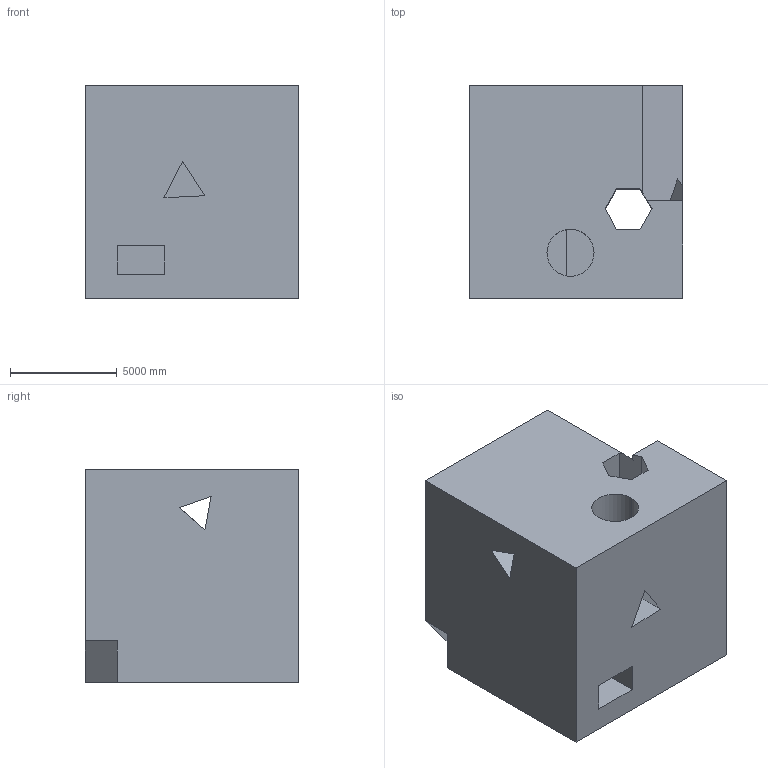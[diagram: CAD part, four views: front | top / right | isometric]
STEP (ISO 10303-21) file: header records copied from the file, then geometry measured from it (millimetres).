
FILE_DESCRIPTION (( 'STEP AP203' ), '1' );
FILE_NAME ('772.STEP', '2022-07-29T13:06:13', ( 'user' ), ( '' ), 'SwSTEP 2.0', 'SolidWorks 2021', '' );
FILE_SCHEMA (( 'CONFIG_CONTROL_DESIGN' ));
Length unit declared in the file: centimetre
Products named in the file (1): 772
Bounding box: 10000 x 10000 x 10000 mm (x, y, z)
Volume: 897536465923.9 mm3; surface area: 802503378.3 mm2
Topology: 1 solids, 1 shells, 45 faces, 135 edges, 90 vertices
Faces by surface type: plane 43, cylinder 2
Entity records: 1592 total; most frequent: CARTESIAN_POINT 283, ORIENTED_EDGE 270, DIRECTION 229, EDGE_CURVE 135, LINE 125, VECTOR 125, VERTEX_POINT 90, EDGE_LOOP 53
